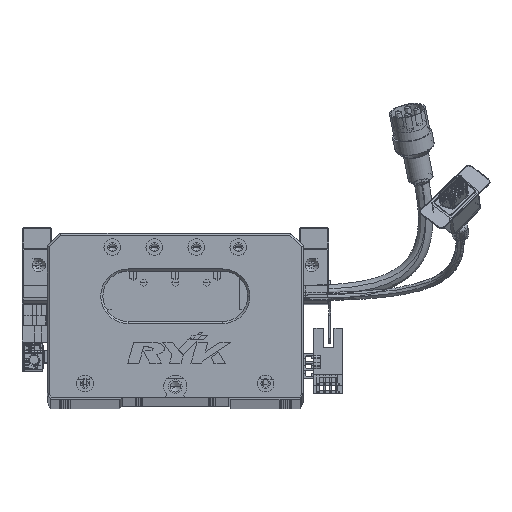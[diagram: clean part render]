
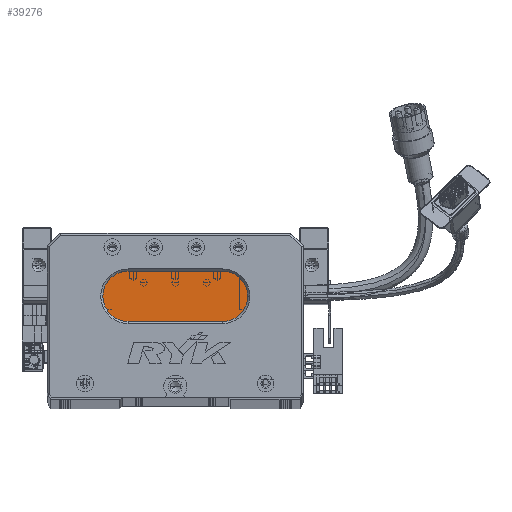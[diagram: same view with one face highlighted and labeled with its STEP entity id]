
A CAD part, top view. The second image highlights one B-rep face of the part: STEP entity #39276.
In plain terms, the highlighted planar face has unit normal (0, 0, 1) as drawn and (0, 0, -1) by its records, which use the part's own axes.
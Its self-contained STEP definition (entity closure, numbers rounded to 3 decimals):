
#2161 = AXIS2_PLACEMENT_3D ( 'NONE', #60556, #81420, #90865 ) ;
#2797 = CARTESIAN_POINT ( 'NONE',  ( 38.5, 36., 13. ) ) ;
#4931 = DIRECTION ( 'NONE',  ( -1., 0., 0. ) ) ;
#5744 = VERTEX_POINT ( 'NONE', #25184 ) ;
#7227 = DIRECTION ( 'NONE',  ( -1., 0., 0. ) ) ;
#7250 = EDGE_CURVE ( 'NONE', #71784, #82390, #8104, .T. ) ;
#8104 = CIRCLE ( 'NONE', #2161, 12. ) ;
#11482 = ORIENTED_EDGE ( 'NONE', *, *, #7250, .T. ) ;
#20837 = CARTESIAN_POINT ( 'NONE',  ( 83.5, 60., 13. ) ) ;
#23864 = EDGE_CURVE ( 'NONE', #5744, #66559, #109475, .T. ) ;
#24049 = CIRCLE ( 'NONE', #54224, 12. ) ;
#25175 = EDGE_CURVE ( 'NONE', #108349, #71784, #41758, .T. ) ;
#25184 = CARTESIAN_POINT ( 'NONE',  ( 38.5, 60., 13. ) ) ;
#26299 = ORIENTED_EDGE ( 'NONE', *, *, #32836, .T. ) ;
#28453 = CIRCLE ( 'NONE', #41342, 12. ) ;
#30996 = DIRECTION ( 'NONE',  ( -1., 0., 0. ) ) ;
#31584 = DIRECTION ( 'NONE',  ( 0., 0., -1. ) ) ;
#32836 = EDGE_CURVE ( 'NONE', #66559, #108349, #24049, .T. ) ;
#33110 = CARTESIAN_POINT ( 'NONE',  ( 83.5, 60., 13. ) ) ;
#35902 = VECTOR ( 'NONE', #4931, 1000. ) ;
#39276 = ADVANCED_FACE ( 'NONE', ( #70253 ), #64681, .T. ) ;
#41342 = AXIS2_PLACEMENT_3D ( 'NONE', #52308, #106484, #30996 ) ;
#41758 = LINE ( 'NONE', #71771, #35902 ) ;
#42716 = CARTESIAN_POINT ( 'NONE',  ( 26.5, 48., 13. ) ) ;
#43229 = ORIENTED_EDGE ( 'NONE', *, *, #93836, .T. ) ;
#50399 = DIRECTION ( 'NONE',  ( -1., 0., 0. ) ) ;
#52308 = CARTESIAN_POINT ( 'NONE',  ( 38.5, 48., 13. ) ) ;
#54224 = AXIS2_PLACEMENT_3D ( 'NONE', #87396, #31584, #50399 ) ;
#60556 = CARTESIAN_POINT ( 'NONE',  ( 38.5, 48., 13. ) ) ;
#64681 = PLANE ( 'NONE',  #88581 ) ;
#66559 = VERTEX_POINT ( 'NONE', #20837 ) ;
#70253 = FACE_OUTER_BOUND ( 'NONE', #91466, .T. ) ;
#71771 = CARTESIAN_POINT ( 'NONE',  ( 83.5, 36., 13. ) ) ;
#71784 = VERTEX_POINT ( 'NONE', #2797 ) ;
#75775 = ORIENTED_EDGE ( 'NONE', *, *, #25175, .T. ) ;
#81420 = DIRECTION ( 'NONE',  ( 0., 0., -1. ) ) ;
#82390 = VERTEX_POINT ( 'NONE', #42716 ) ;
#84524 = VECTOR ( 'NONE', #97156, 1000. ) ;
#87396 = CARTESIAN_POINT ( 'NONE',  ( 83.5, 48., 13. ) ) ;
#88581 = AXIS2_PLACEMENT_3D ( 'NONE', #102811, #119651, #7227 ) ;
#90865 = DIRECTION ( 'NONE',  ( -1., 0., 0. ) ) ;
#91466 = EDGE_LOOP ( 'NONE', ( #26299, #75775, #11482, #43229, #91821 ) ) ;
#91821 = ORIENTED_EDGE ( 'NONE', *, *, #23864, .T. ) ;
#93836 = EDGE_CURVE ( 'NONE', #82390, #5744, #28453, .T. ) ;
#97156 = DIRECTION ( 'NONE',  ( 1., 0., 0. ) ) ;
#100215 = CARTESIAN_POINT ( 'NONE',  ( 83.5, 36., 13. ) ) ;
#102811 = CARTESIAN_POINT ( 'NONE',  ( 83.5, 48., 13. ) ) ;
#106484 = DIRECTION ( 'NONE',  ( 0., 0., -1. ) ) ;
#108349 = VERTEX_POINT ( 'NONE', #100215 ) ;
#109475 = LINE ( 'NONE', #33110, #84524 ) ;
#119651 = DIRECTION ( 'NONE',  ( 0., 0., -1. ) ) ;
